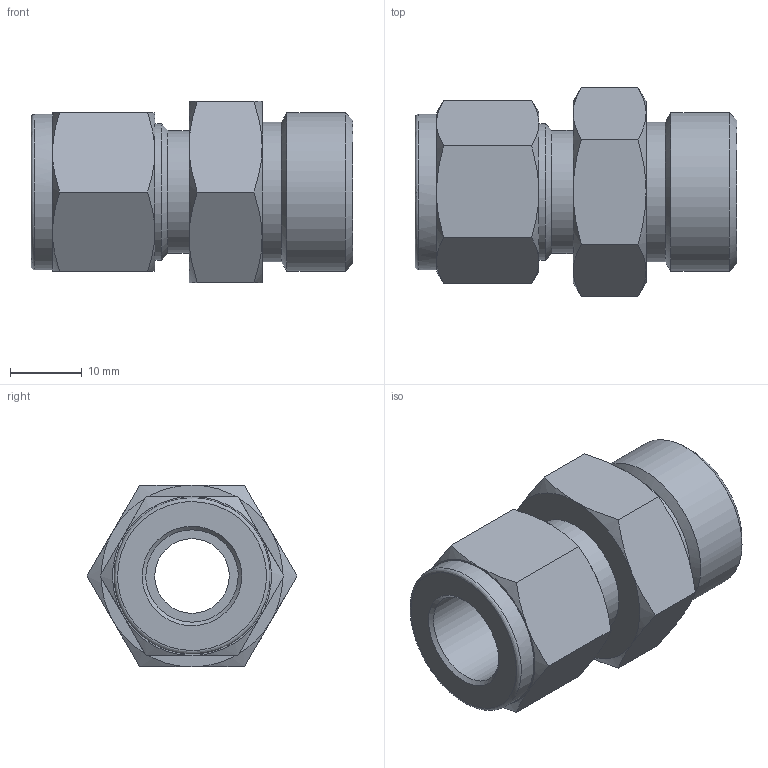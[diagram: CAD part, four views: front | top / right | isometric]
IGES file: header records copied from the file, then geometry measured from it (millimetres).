
Global section: file name: SSMC-8-10U; native system: Autodesk Inventor 2016; preprocessor: unknown; author: DESIGNPC2; date: 20160123.143820; units: millimetre
Bounding box: 45 x 29.33 x 25.4 mm (x, y, z)
Volume: 13792.2 mm3; surface area: 6257.6 mm2
Topology: 1 solids, 1 shells, 57 faces, 136 edges, 87 vertices
Faces by surface type: bspline 57
